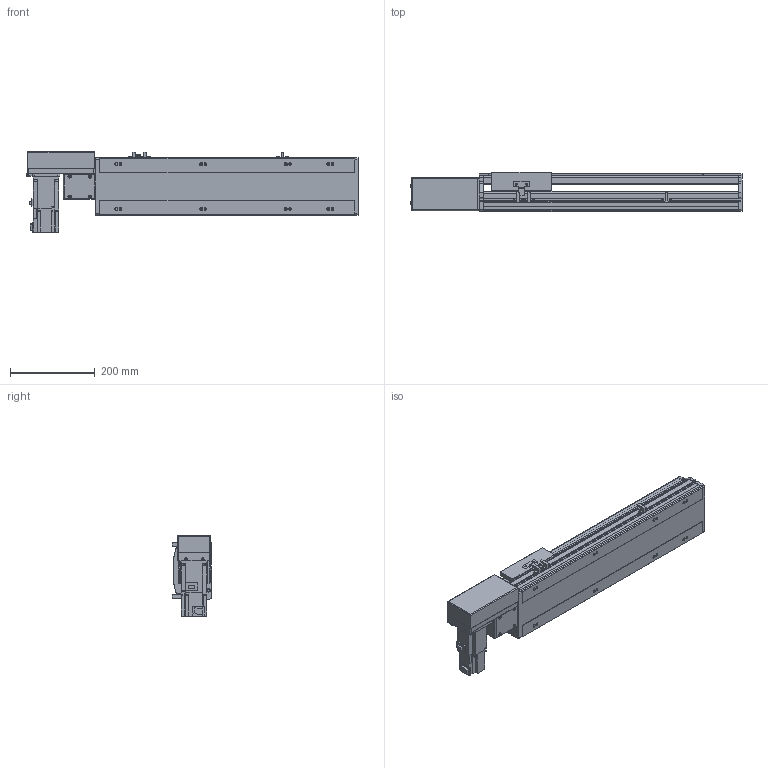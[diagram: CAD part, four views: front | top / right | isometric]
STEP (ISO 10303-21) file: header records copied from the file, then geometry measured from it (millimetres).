
FILE_DESCRIPTION( ( 'STEP AP214' ), '1' );
FILE_NAME( 'x:/temp/worker_6/temp/exporttempdir_5396_49_wUMYQ/format_0/PBS140S-P40-S350-R-T40-C1-N(0).stp', '2022-06-09T00:12:11', ( 'License CC BY-ND 4.0' ), ( 'CADENAS' ), ' ', 'PARTsolutions', ' ' );
FILE_SCHEMA( ( 'AUTOMOTIVE_DESIGN { 1 0 10303 214 1 1 1 1 }' ) );
Length unit declared in the file: millimetre
Products named in the file (7): PBS140S-P40-S350-R-T40-C1-N(0); _PBS140S-S350()_body; _PBS140ST-R_motors; _T40-p1; _PBS140S_sliser; _PBS140S_plant; _PBS140S_sensor
Assembly tree (8 placements, depth 2):
  PBS140S-P40-S350-R-T40-C1-N(0)
    _PBS140S-S350()_body
    _PBS140ST-R_motors
    _T40-p1
    _PBS140S_sliser
    _PBS140S_plant
    _PBS140S_sensor  x3
Bounding box: 783 x 93 x 189.7 mm (x, y, z)
Volume: 4079032.2 mm3; surface area: 734950.2 mm2
Topology: 8 solids, 8 shells, 1035 faces, 2751 edges, 1801 vertices
Faces by surface type: plane 678, cylinder 313, cone 34, sphere 8, torus 2
Full cylindrical faces by diameter (mm): 3.242 x4, 4 x2, 4.134 x4, 4.4 x8, 4.5 x2, 4.8 x4, 4.917 x16, 5.5 x7, 6 x2, 7 x10, 7.5 x8, 8 x12, 8.5 x4, 10.5 x8, 14 x1, 30 x2, 50 x2
Entity records: 37768 total; most frequent: CARTESIAN_POINT 5734, DIRECTION 5068, ORIENTED_EDGE 4822, EDGE_CURVE 2411, AXIS2_PLACEMENT_3D 1739, VERTEX_POINT 1657, LINE 1590, VECTOR 1590
